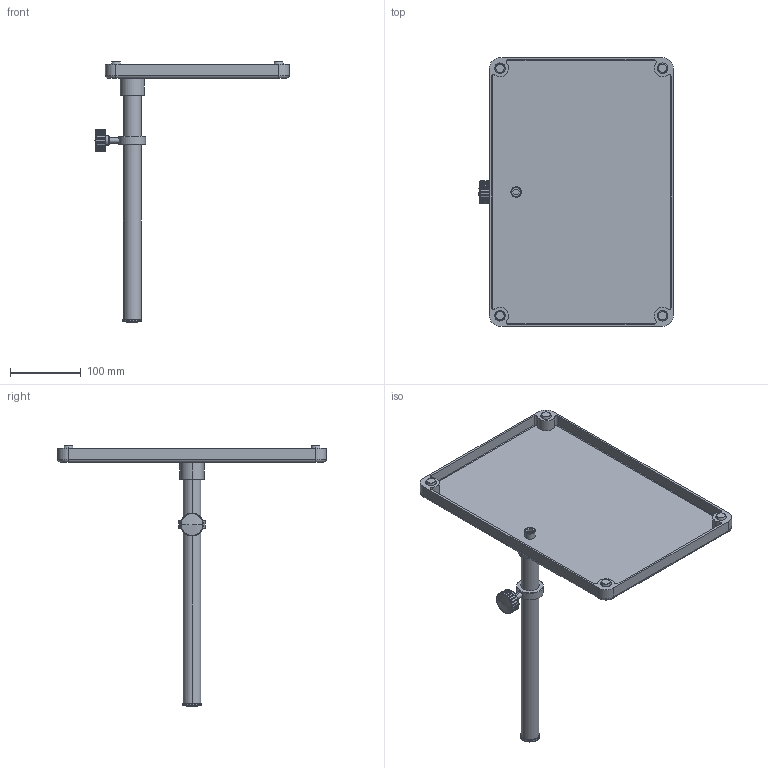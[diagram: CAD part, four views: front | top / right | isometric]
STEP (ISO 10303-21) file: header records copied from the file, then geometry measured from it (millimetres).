
FILE_DESCRIPTION((''),'2;1');
FILE_NAME('B1000_ASM','2024-03-13T14:19:36',('fangzhiyong'),(''),'CREO PARAMETRIC BY PTC INC, 2020044','CREO PARAMETRIC BY PTC INC, 2020044','');
FILE_SCHEMA(('CONFIG_CONTROL_DESIGN'));
Length unit declared in the file: millimetre
Products named in the file (13): ADMICE72HQW4_1; ADMICE72HQW4_2; ADMICE72HQW4_3; ADMICE72HQW4_4; ADMICE72HQW4_5; ADMICE72HQW4_6; ADMICE72HQW4_7; ADMICE72HQW4_8; ADMICE72HQW4_9; ADMICE72HQW4_10; ADMICE72HQW4_11; ADMICE72HQW4_ASM; B1000_ASM
Assembly tree (12 placements, depth 3):
  B1000_ASM
    ADMICE72HQW4_ASM
      ADMICE72HQW4_1
      ADMICE72HQW4_2
      ADMICE72HQW4_3
      ADMICE72HQW4_4
      ADMICE72HQW4_5
      ADMICE72HQW4_6
      ADMICE72HQW4_7
      ADMICE72HQW4_8
      ADMICE72HQW4_9
      ADMICE72HQW4_10
      ADMICE72HQW4_11
Bounding box: 275 x 380 x 368 mm (x, y, z)
Volume: 511148.2 mm3; surface area: 305094 mm2
Topology: 11 solids, 11 shells, 366 faces, 998 edges, 665 vertices
Faces by surface type: cylinder 160, plane 110, cone 78, torus 12, sphere 6
Entity records: 13058 total; most frequent: CARTESIAN_POINT 3154, DIRECTION 2230, ORIENTED_EDGE 1992, EDGE_CURVE 996, AXIS2_PLACEMENT_3D 962, VERTEX_POINT 665, CIRCLE 560, EDGE_LOOP 391
